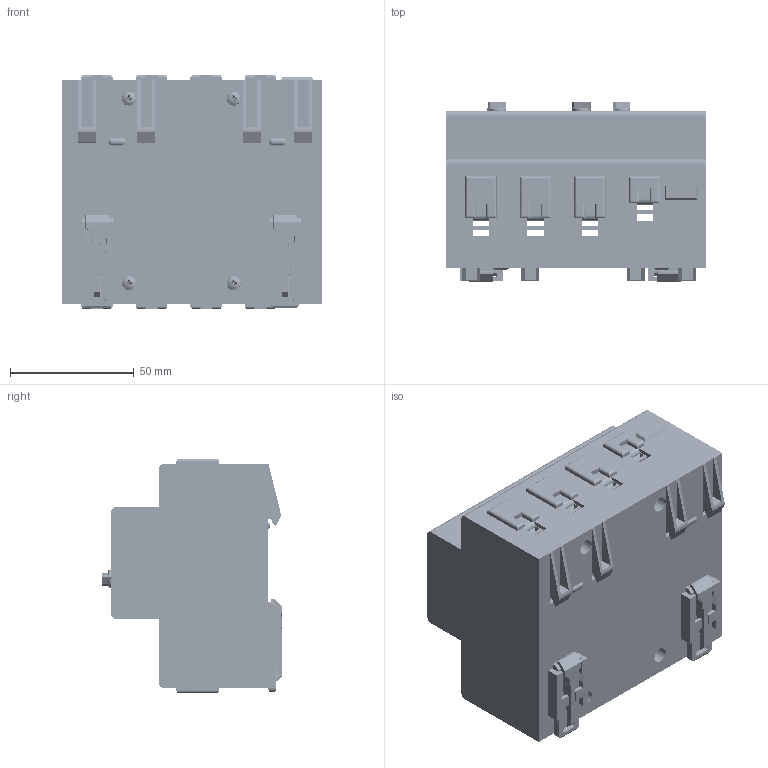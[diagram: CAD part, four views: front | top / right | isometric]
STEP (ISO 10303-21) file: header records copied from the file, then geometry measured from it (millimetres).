
FILE_DESCRIPTION(('STEP AP203'), '1');
FILE_NAME('栖闉罻_VDS_P02_UZM-3-63K', '', ('UNSPECIFIED'), ('UNSPECIFIED'), 'ASCON STEP Converter 1.6', 'ASCON Math Kernel', '');
FILE_SCHEMA(('CONFIG_CONTROL_DESIGN'));
Length unit declared in the file: millimetre
Products named in the file (17): Klem_7x9; Throw_bus; LightPipe_x3x2x1_v2015-0_build20160120; R-knob_2017_Hex2mm_; 105mm3p_lock
Assembly tree (43 placements, depth 2):
  (unnamed)
    (unnamed)
    (unnamed)
    Klem_7x9
    Klem_7x9  x9
    Throw_bus  x4
    (unnamed)
    (unnamed)
    (unnamed)  x7
    LightPipe_x3x2x1_v2015-0_build20160120  x6
    R-knob_2017_Hex2mm_  x3
    105mm3p_lock  x2
    (unnamed)
    (unnamed)  x3
    (unnamed)
    (unnamed)
    (unnamed)
Bounding box: 104.85 x 72.4 x 94.3 mm (x, y, z)
Volume: 94913.7 mm3; surface area: 116816.2 mm2
Topology: 430 solids, 437 shells, 16509 faces, 46308 edges, 30707 vertices
Faces by surface type: plane 14179, extrusion 1400, cylinder 539, bspline 158, torus 124, cone 69, sphere 40
Full cylindrical faces by diameter (mm): 2 x12, 2.5 x4, 2.9 x4, 3.9 x2, 4 x8, 4.5 x3, 5 x23, 5.6 x4, 6.4 x4, 6.5 x8, 8 x4, 8.5 x8, 9 x6
Entity records: 609230 total; most frequent: CARTESIAN_POINT 102792, ORIENTED_EDGE 85355, DIRECTION 69258, EDGE_CURVE 42681, VECTOR 40490, LINE 39090, VERTEX_POINT 28401, EDGE_LOOP 15644
